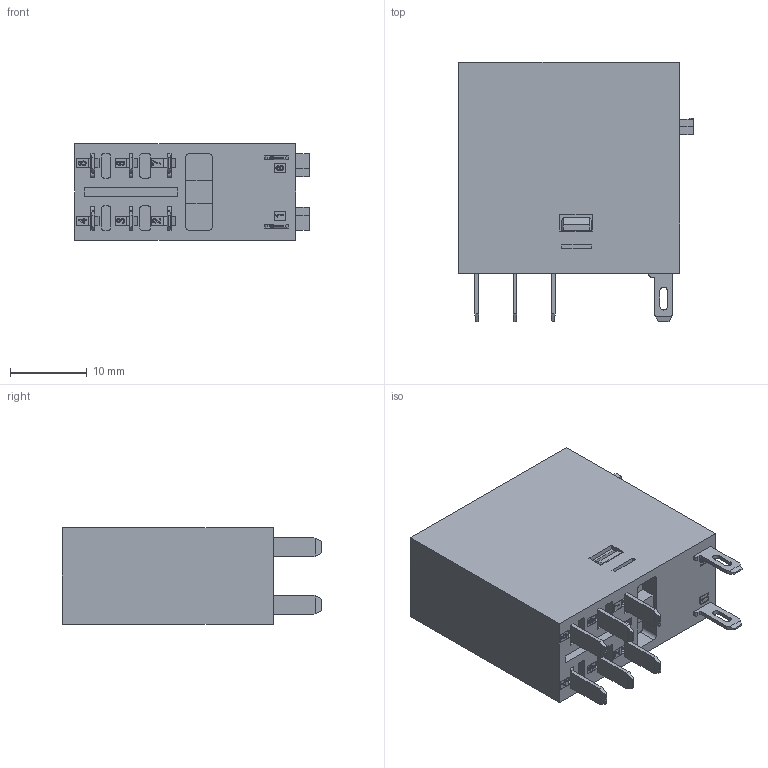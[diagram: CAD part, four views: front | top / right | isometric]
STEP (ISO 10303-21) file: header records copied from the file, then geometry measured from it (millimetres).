
FILE_DESCRIPTION (( 'STEP AP203' ), '1' );
FILE_NAME ('RFT-2C -L 俋倛.STEP', '2022-12-28T06:16:48', ( '' ), ( '' ), 'SwSTEP 2.0', 'SolidWorks 2018', '' );
FILE_SCHEMA (( 'CONFIG_CONTROL_DESIGN' ));
Length unit declared in the file: millimetre
Products named in the file (1): RFT-2C -L 俋倛
Bounding box: 30.6 x 33.8 x 12.6 mm (x, y, z)
Volume: 9809.1 mm3; surface area: 3829.7 mm2
Topology: 1 solids, 1 shells, 551 faces, 1547 edges, 1019 vertices
Faces by surface type: plane 423, cylinder 71, bspline 57
Entity records: 20962 total; most frequent: CARTESIAN_POINT 6879, ORIENTED_EDGE 3094, DIRECTION 2573, EDGE_CURVE 1547, LINE 1283, VECTOR 1283, VERTEX_POINT 1019, AXIS2_PLACEMENT_3D 645
